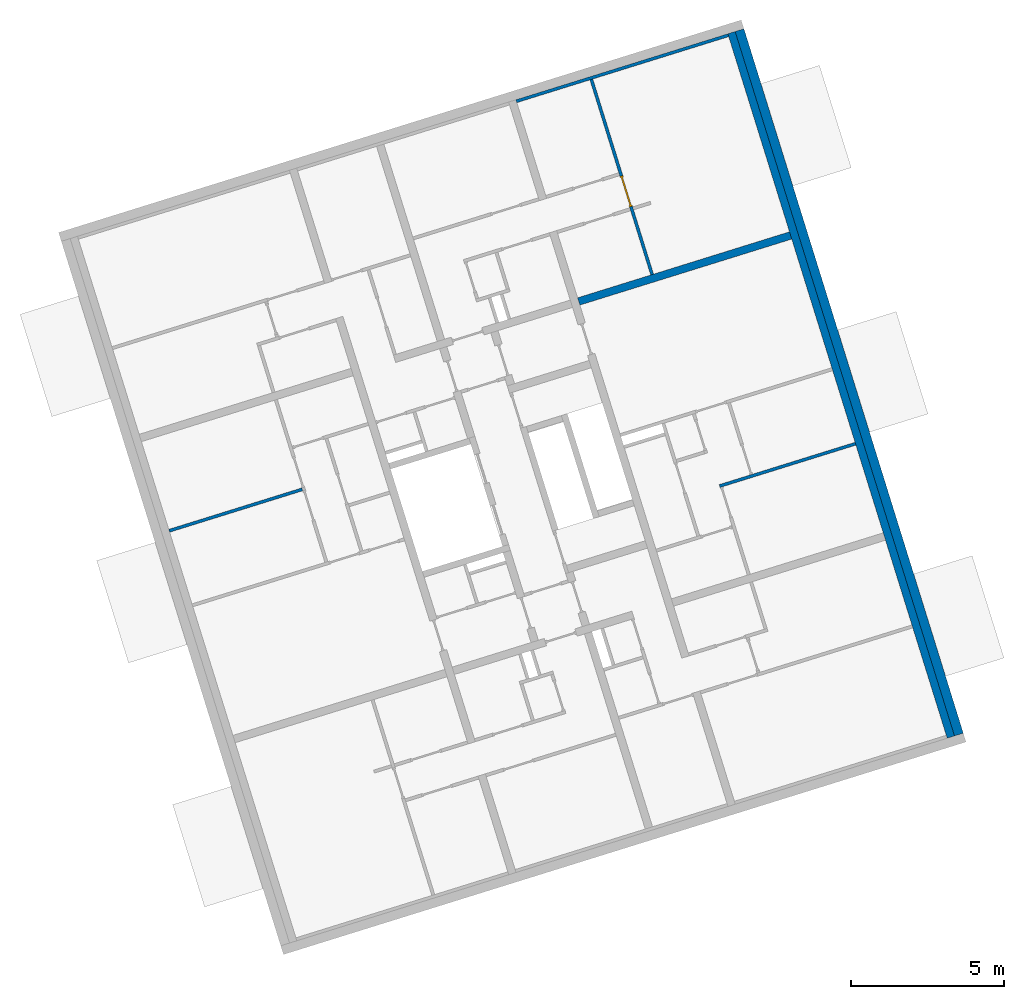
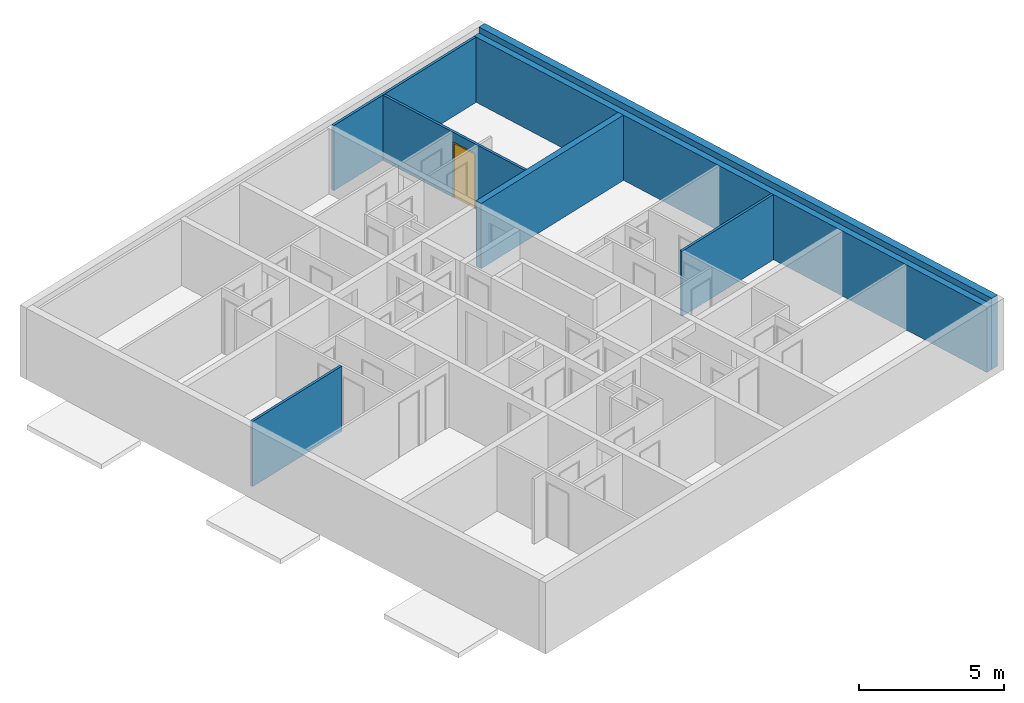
# One storey, part 7 of 9: 7 walls, 1 door, 4 openings.
"""IFC4 building model written with IfcOpenShell, lengths in metres."""

from ifc_helpers import new_model, entity, si_unit, converted_unit, direction, frame, origin, place, context, subcontext, project, spatial, indexed_curve, outline, extrude, polygons, source, transform, mapped, material, constituent, constituent_set, type_object, type_shapes, element, fill, save


model = new_model("IFC4")

# Units and contexts
model_context = context("Model", 3, precision=1e-05, world=origin(), true_north=direction((6.12323399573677e-17, 1.0)))
body_context = subcontext(model_context, "Body", "Model", "MODEL_VIEW")
ifc_project = project(units=[si_unit("LENGTHUNIT", "METRE"), si_unit("AREAUNIT", "SQUARE_METRE"), si_unit("VOLUMEUNIT", "CUBIC_METRE"), converted_unit("PLANEANGLEUNIT", "DEGREE", entity("IfcPlaneAngleMeasure", 0.0174532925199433), si_unit("PLANEANGLEUNIT", "RADIAN"), dimensions=[0, 0, 0, 0, 0, 0, 0])], contexts=[model_context])

# Site, building, storey
site_placement = place(None, frame((13.1347999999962, 11.9886000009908, 0.0), z_axis=(0.0, 0.0, 1.0), x_axis=(0.954770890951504, 0.297342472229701, 0.0)))
site = spatial("IfcSite", under=ifc_project, at=site_placement, Name="Schiehaven", CompositionType="ELEMENT")
building_placement = place(site_placement, origin())
building = spatial("IfcBuilding", under=site, at=building_placement, Name="VORM huis", CompositionType="ELEMENT")
storey_placement = place(building_placement, frame((0.0, 0.0, 24.9)))
storey = spatial("IfcBuildingStorey", under=building, at=storey_placement, Name="08 achtste verdieping", CompositionType="ELEMENT", Elevation=24.9)

# Walls
ifc_material_1 = material(Name="beton_gewapend_ihw", Category="Miscellaneous")
wall_type_1 = type_object("IfcWallType", Name="Basic Wall:28_WA_skelet_wand 250mm_gen", PredefinedType="STANDARD")
wall_1_placement = place(storey_placement, frame((27.5000000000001, 5.0, 0.0), z_axis=(0.0, 0.0, 1.0), x_axis=(0.0, 1.0, 0.0)))
element("IfcWall", 1, at=wall_1_placement, inside=storey, type_object=wall_type_1, material=ifc_material_1, Name="Constructieve wand", ObjectType="Wand", PredefinedType="NOTDEFINED", context=body_context, shape_type="SweptSolid", body=[
    extrude(outline(indexed_curve([(24.1, 0.125000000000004), (-1.12157309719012e-16, 0.125000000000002), (1.12157309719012e-16, -0.125000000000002), (24.1, -0.125), (24.1, 0.125000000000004)], self_intersect=False)), origin(), (0.0, 0.0, 1.0), 2.75),
])
ifc_material_2 = material(Name="ntb_ntb_ntb", Category="Miscellaneous")
wall_type_2 = type_object("IfcWallType", Name="Basic Wall:21_WA_gevel_binnenspouwwand 100mm_gen", PredefinedType="STANDARD")
wall_2_placement = place(storey_placement, frame((20.1250000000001, 29.05, 0.0)))
element("IfcWall", 2, at=wall_2_placement, inside=storey, type_object=wall_type_2, material=ifc_material_2, Name="Binnenspouwblad", ObjectType="Wand", PredefinedType="NOTDEFINED", context=body_context, shape_type="SweptSolid", body=[
    extrude(outline(indexed_curve([(7.24999999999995, 0.0500000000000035), (-1.62265042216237e-16, 0.0500000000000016), (1.62265042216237e-16, -0.0500000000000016), (7.24999999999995, -0.0499999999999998), (7.24999999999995, 0.0500000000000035)], self_intersect=False)), origin(), (0.0, 0.0, 1.0), 2.75),
])
wall_type_3 = type_object("IfcWallType", Name="Basic Wall: 300mm_gen", PredefinedType="STANDARD")
wall_3_placement = place(storey_placement, frame((27.7750000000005, 29.0999999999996, 0.0), z_axis=(0.0, 0.0, 1.0), x_axis=(0.0, -1.0, 0.0)))
element("IfcWall", 3, at=wall_3_placement, inside=storey, type_object=wall_type_3, material=ifc_material_2, Name="Gevelwand", ObjectType="Wand", PredefinedType="NOTDEFINED", context=body_context, shape_type="SweptSolid", body=[
    extrude(outline(indexed_curve([(24.1, 0.150000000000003), (2.02161848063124e-15, 0.150000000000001), (-2.02161848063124e-15, -0.150000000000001), (24.1, -0.149999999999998), (24.1, 0.150000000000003)], self_intersect=False)), origin(), (0.0, 0.0, 1.0), 3.0),
])
wall_type_4 = type_object("IfcWallType", Name="Basic Wall:22_WA_afbouw_binnenwand 250mm_gen", PredefinedType="STANDARD")
wall_4_placement = place(storey_placement, frame((20.1250000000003, 22.1999999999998, 0.0)))
element("IfcWall", 4, at=wall_4_placement, inside=storey, type_object=wall_type_4, material=ifc_material_2, Name="Binnenwand", ObjectType="Wand", PredefinedType="NOTDEFINED", context=body_context, shape_type="SweptSolid", body=[
    extrude(outline(indexed_curve([(7.24999999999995, 0.125000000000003), (-1.80881749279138e-15, 0.125000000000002), (1.80881749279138e-15, -0.125000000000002), (7.24999999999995, -0.125000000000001), (7.24999999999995, 0.125000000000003)], self_intersect=False)), origin(), (0.0, 0.0, 1.0), 2.75),
])

# Wall, opening, door
wall_type_5 = type_object("IfcWallType", Name="Basic Wall:22_WA_afbouw_binnenwand 100mm_gen", PredefinedType="STANDARD")
wall_5_placement = place(storey_placement, frame((22.6750000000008, 22.3250000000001, 0.0), z_axis=(0.0, 0.0, 1.0), x_axis=(0.0, 1.0, 0.0)))
wall_5 = element("IfcWall", 5, at=wall_5_placement, inside=storey, type_object=wall_type_5, material=ifc_material_2, Name="Binnenwand", ObjectType="Wand", PredefinedType="NOTDEFINED", context=body_context, shape_type="Tessellation", body=[
    polygons([(4.33146851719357e-15, -0.0499999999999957, 0.0), (2.2, -0.0499999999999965, 0.0), (2.3, -0.0499999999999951, 0.0), (2.32500000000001, -0.0499999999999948, 0.0), (2.32500000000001, -0.0499999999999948, 2.34999999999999), (3.37500000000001, -0.0499999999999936, 2.34999999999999), (3.37500000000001, -0.0499999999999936, 0.0), (6.67499999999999, -0.0499999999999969, 0.0), (6.67499999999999, -0.0499999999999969, 2.75), (2.3, -0.0499999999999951, 2.75), (2.2, -0.0499999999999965, 2.75), (4.33146851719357e-15, -0.0499999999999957, 2.75), (2.325, 0.0500000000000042, 2.34999999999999), (2.325, 0.0500000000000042, 0.0), (2.3, 0.0500000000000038, 0.0), (2.2, 0.0500000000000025, 0.0), (0.0, 0.0500000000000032, 0.0), (0.0, 0.0500000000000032, 2.75), (2.2, 0.0500000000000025, 2.75), (2.3, 0.0500000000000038, 2.75), (3.4, 0.0500000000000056, 2.75), (3.5, 0.0500000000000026, 2.75), (6.67499999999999, 0.050000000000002, 2.75), (6.67499999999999, 0.050000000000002, 0.0), (3.5, 0.0500000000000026, 0.0), (3.4, 0.0500000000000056, 0.0), (3.37500000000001, 0.0500000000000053, 0.0), (3.37500000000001, 0.0500000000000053, 2.34999999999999)], [[[1, 2, 3, 4, 5, 6, 7, 8, 9, 10, 11, 12]], [[13, 14, 15, 16, 17, 18, 19, 20, 21, 22, 23, 24, 25, 26, 27, 28]], [[17, 16, 15, 14, 4, 3, 2, 1]], [[9, 8, 24, 23]], [[12, 11, 10, 9, 23, 22, 21, 20, 19, 18]], [[1, 12, 18, 17]], [[7, 6, 28, 27]], [[5, 4, 14, 13]], [[6, 5, 13, 28]], [[27, 26, 25, 24, 8, 7]]], closed=True),
])
opening_1_placement = place(wall_5_placement, frame((2.325, -0.0500000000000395, 0.0)))
opening_1 = element("IfcOpeningElement", 6, at=opening_1_placement, cuts=wall_5, Name="Binnendeur", PredefinedType="OPENING", context=body_context, shape_type="SweptSolid", body=[
    extrude(outline(indexed_curve([(2.34999999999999, 1.05), (0.0, 1.05), (0.0, -4.30326930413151e-29), (2.34999999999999, -4.30326930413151e-29), (2.34999999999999, 1.05)], self_intersect=False)), frame((0.0, 0.0, 0.0), z_axis=(0.0, 1.0, 0.0), x_axis=(0.0, 0.0, 1.0)), (0.0, 0.0, 1.0), 0.1),
])
ifc_material_3 = material(Name="PD_a_binnenwandopeningen", Category="Miscellaneous")
ifc_constituent_1 = constituent(ifc_material_3, Name="PD_a_binnenwandopeningen", Category="Miscellaneous")
ifc_material_4 = material(Name="metaal_aluminium_ntb", Category="Miscellaneous")
ifc_constituent_2 = constituent(ifc_material_4, Name="metaal_aluminium_ntb", Category="Miscellaneous")
ifc_constituent_set = constituent_set(constituents=[ifc_constituent_1, ifc_constituent_2])
door_type = type_object("IfcDoorType", Name="32_DO_binnendeur enkel:binnendeur", OperationType="REVOLVING", PredefinedType="DOOR")
shared_shape = source(origin(), body_context, "Body", "SweptSolid", [
    extrude(outline(indexed_curve([(-1.16249999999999, -0.525000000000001), (1.18749999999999, -0.525), (1.18749999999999, 0.525), (-1.16249999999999, 0.525), (-1.16249999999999, 0.475), (1.13749999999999, 0.475), (1.13749999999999, -0.475), (-1.16249999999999, -0.475), (-1.16249999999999, -0.525000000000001)], self_intersect=False)), frame((0.525000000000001, 0.0, 1.16249999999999), z_axis=(0.0, 1.0, 0.0), x_axis=(0.0, 0.0, 1.0)), (0.0, 0.0, 1.0), 0.1),
    extrude(outline(indexed_curve([(-0.025, -0.475), (0.025, -0.475), (0.025, 0.475), (-0.025, 0.475), (-0.025, -0.475)], self_intersect=False)), frame((0.525000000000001, 0.0499999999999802, 0.0), z_axis=(0.0, 0.0, 1.0), x_axis=(0.0, 1.0, 0.0)), (0.0, 0.0, 1.0), 2.29999999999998),
])
type_shapes(door_type, [shared_shape])
door_placement = place(opening_1_placement, origin())
door = element("IfcDoor", 7, at=door_placement, inside=storey, type_object=door_type, material=ifc_constituent_set, Name="Binnendeur", ObjectType="Deur", OperationType="REVOLVING", OverallHeight=2.34999999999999, OverallWidth=1.05, PredefinedType="DOOR", context=body_context, shape_type="MappedRepresentation", body=[
    mapped(shared_shape, transform((0.0, 0.0, 0.0), scale=1.0)),
])
fill(opening_1, door)

# Wall, openings
wall_6_placement = place(storey_placement, frame((22.7250000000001, 15.075, 0.0)))
wall_6 = element("IfcWall", 8, at=wall_6_placement, inside=storey, type_object=wall_type_5, material=ifc_material_2, Name="Binnenwand", ObjectType="Wand", PredefinedType="NOTDEFINED", context=body_context, shape_type="Tessellation", body=[
    polygons([(2.32806113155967e-16, -0.0500000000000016, 0.0), (4.65000000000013, -0.0500000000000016, 0.0), (4.65000000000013, -0.0500000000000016, 2.75), (0.0999999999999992, -0.0500000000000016, 2.75), (2.32806113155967e-16, -0.0500000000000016, 2.75), (2.32806113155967e-16, -0.0500000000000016, 2.34999999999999), (-1.98070570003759e-16, 0.0499999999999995, 0.0), (-1.98070570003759e-16, 0.0499999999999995, 2.75), (1.05, 0.0499999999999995, 2.75), (1.15, 0.0499999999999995, 2.75), (4.65000000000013, 0.0499999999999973, 2.75), (4.65000000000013, 0.0499999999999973, 0.0)], [[[1, 2, 3, 4, 5, 6]], [[7, 8, 9, 10, 11, 12]], [[2, 1, 7, 12]], [[3, 2, 12, 11]], [[5, 4, 3, 11, 10, 9, 8]], [[1, 6, 5, 8, 7]]], closed=True),
])
opening_2_placement = place(wall_6_placement, origin())
element("IfcOpeningElement", 9, at=opening_2_placement, cuts=wall_6, Name="Binnendeur", PredefinedType="OPENING", context=body_context, shape_type="SweptSolid", body=[
    extrude(outline(indexed_curve([(-0.0499999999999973, -1.17499999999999), (0.0500000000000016, -1.17499999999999), (0.0500000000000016, 1.17499999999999), (-0.0499999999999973, 1.17499999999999), (-0.0499999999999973, -1.17499999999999)], self_intersect=False)), frame((0.050000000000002, -1.1, 1.17499999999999), z_axis=(0.0, 1.0, 0.0), x_axis=(1.0, 0.0, 0.0)), (0.0, 0.0, 1.0), 1.05),
])
opening_3_placement = place(wall_6_placement, origin())
element("IfcOpeningElement", 10, at=opening_3_placement, cuts=wall_6, Name="Binnendeur", PredefinedType="OPENING", context=body_context, shape_type="SweptSolid", body=[
    extrude(outline(indexed_curve([(-0.0500000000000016, -1.17499999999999), (0.0499999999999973, -1.17499999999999), (0.0499999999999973, 1.17499999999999), (-0.0500000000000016, 1.17499999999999), (-0.0500000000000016, -1.17499999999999)], self_intersect=False)), frame((1.1, 0.0500000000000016, 1.17499999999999), z_axis=(0.0, 1.0, 0.0), x_axis=(1.0, 0.0, 0.0)), (0.0, 0.0, 1.0), 1.05),
])

# Wall, opening
wall_7_placement = place(storey_placement, frame((9.6750000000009, 19.0250000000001, 0.0), z_axis=(0.0, 0.0, 1.0), x_axis=(-1.0, 0.0, 0.0)))
wall_7 = element("IfcWall", 11, at=wall_7_placement, inside=storey, type_object=wall_type_5, material=ifc_material_2, Name="Binnenwand", ObjectType="Wand", PredefinedType="NOTDEFINED", context=body_context, shape_type="Tessellation", body=[
    polygons([(3.01916530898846e-16, -0.0500000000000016, 0.0), (4.55000000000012, -0.0500000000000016, 0.0), (4.55000000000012, -0.0500000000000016, 2.75), (3.01916530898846e-16, -0.0500000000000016, 2.75), (3.01916530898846e-16, -0.0500000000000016, 2.34999999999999), (6.73589386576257e-16, 0.0500000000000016, 0.0), (6.73589386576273e-16, 0.0499999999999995, 2.34999999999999), (6.73589386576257e-16, 0.0500000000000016, 2.75), (4.55000000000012, 0.0499999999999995, 2.75), (4.55000000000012, 0.0499999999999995, 0.0)], [[[1, 2, 3, 4, 5]], [[6, 7, 8, 9, 10]], [[2, 1, 6, 10]], [[3, 2, 10, 9]], [[4, 3, 9, 8]], [[1, 5, 4, 8, 7, 6]]], closed=True),
])
opening_4_placement = place(wall_7_placement, origin())
element("IfcOpeningElement", 12, at=opening_4_placement, cuts=wall_7, Name="Binnendeur", PredefinedType="OPENING", context=body_context, shape_type="SweptSolid", body=[
    extrude(outline(indexed_curve([(-0.0499999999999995, -1.17499999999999), (0.0499999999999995, -1.17499999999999), (0.0499999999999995, 1.17499999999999), (-0.0499999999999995, 1.17499999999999), (-0.0499999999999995, -1.17499999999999)], self_intersect=False)), frame((-0.049999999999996, -1.1, 1.17499999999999), z_axis=(0.0, 1.0, 0.0), x_axis=(1.0, 0.0, 0.0)), (0.0, 0.0, 1.0), 1.05),
])

save(model, "model.ifc")
